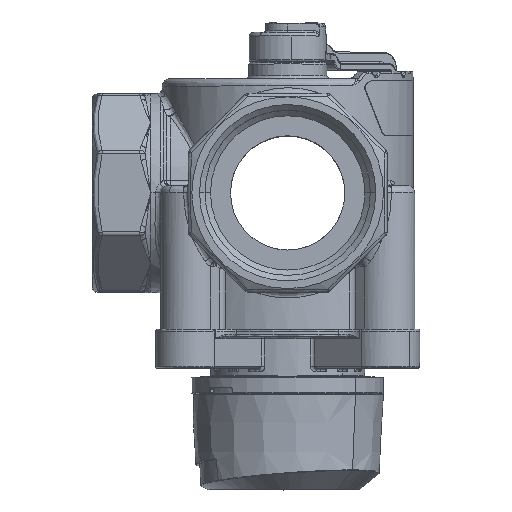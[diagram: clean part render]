
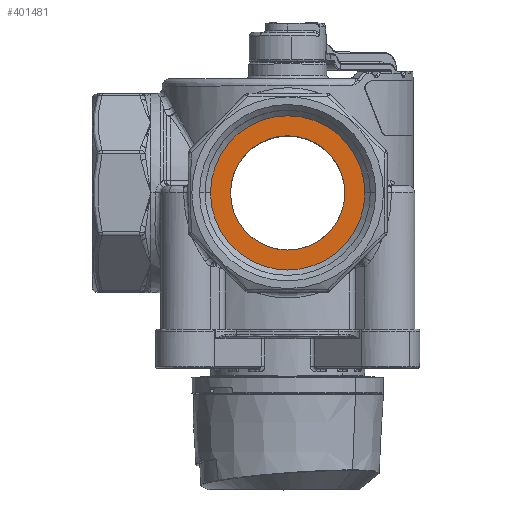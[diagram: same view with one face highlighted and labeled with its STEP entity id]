
A CAD part, top view. The second image highlights one B-rep face of the part: STEP entity #401481.
In plain terms, the highlighted planar face has unit normal (0, 0, 1) as drawn and (0, 0, -1) by its records, which use the part's own axes.
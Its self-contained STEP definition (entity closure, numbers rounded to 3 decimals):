
#10835 = EDGE_CURVE ( 'NONE', #217399, #228528, #146799, .T. ) ;
#13097 = CARTESIAN_POINT ( 'NONE',  ( -21.577, -14., -32. ) ) ;
#14987 = DIRECTION ( 'NONE',  ( -1., 0., 0. ) ) ;
#15510 = DIRECTION ( 'NONE',  ( -1., 0., 0. ) ) ;
#35640 = CARTESIAN_POINT ( 'NONE',  ( -6.077, -14., -32. ) ) ;
#43476 = CIRCLE ( 'NONE', #361646, 20.925 ) ;
#43878 = DIRECTION ( 'NONE',  ( 0., 0., -1. ) ) ;
#49762 = CIRCLE ( 'NONE', #329147, 15.5 ) ;
#57791 = EDGE_CURVE ( 'NONE', #360118, #221035, #438910, .T. ) ;
#77775 = DIRECTION ( 'NONE',  ( 0., 0., 1. ) ) ;
#101605 = FACE_OUTER_BOUND ( 'NONE', #439453, .T. ) ;
#146799 = CIRCLE ( 'NONE', #426153, 20.925 ) ;
#175781 = CARTESIAN_POINT ( 'NONE',  ( -37.077, -14., -32. ) ) ;
#212352 = EDGE_CURVE ( 'NONE', #221035, #360118, #49762, .T. ) ;
#213892 = PLANE ( 'NONE',  #427245 ) ;
#217399 = VERTEX_POINT ( 'NONE', #328252 ) ;
#221035 = VERTEX_POINT ( 'NONE', #35640 ) ;
#223438 = AXIS2_PLACEMENT_3D ( 'NONE', #333451, #77775, #14987 ) ;
#228528 = VERTEX_POINT ( 'NONE', #316611 ) ;
#266357 = CARTESIAN_POINT ( 'NONE',  ( -21.577, 6.925, -32. ) ) ;
#271609 = DIRECTION ( 'NONE',  ( 0., 0., -1. ) ) ;
#280407 = CARTESIAN_POINT ( 'NONE',  ( -21.577, -14., -32. ) ) ;
#282907 = DIRECTION ( 'NONE',  ( 0., 0., 1. ) ) ;
#301202 = EDGE_LOOP ( 'NONE', ( #473397, #320713 ) ) ;
#311627 = DIRECTION ( 'NONE',  ( -1., 0., 0. ) ) ;
#316611 = CARTESIAN_POINT ( 'NONE',  ( -0.652, -14., -32. ) ) ;
#320713 = ORIENTED_EDGE ( 'NONE', *, *, #212352, .T. ) ;
#328252 = CARTESIAN_POINT ( 'NONE',  ( -42.502, -14., -32. ) ) ;
#329147 = AXIS2_PLACEMENT_3D ( 'NONE', #13097, #282907, #435359 ) ;
#333451 = CARTESIAN_POINT ( 'NONE',  ( -21.577, -14., -32. ) ) ;
#360118 = VERTEX_POINT ( 'NONE', #175781 ) ;
#361646 = AXIS2_PLACEMENT_3D ( 'NONE', #280407, #432886, #15510 ) ;
#384130 = CARTESIAN_POINT ( 'NONE',  ( -21.577, -14., -32. ) ) ;
#397043 = EDGE_CURVE ( 'NONE', #228528, #217399, #43476, .T. ) ;
#401481 = ADVANCED_FACE ( 'NONE', ( #443942, #101605 ), #213892, .T. ) ;
#426153 = AXIS2_PLACEMENT_3D ( 'NONE', #384130, #271609, #311627 ) ;
#427245 = AXIS2_PLACEMENT_3D ( 'NONE', #266357, #43878, #458768 ) ;
#428602 = ORIENTED_EDGE ( 'NONE', *, *, #397043, .T. ) ;
#432886 = DIRECTION ( 'NONE',  ( 0., 0., -1. ) ) ;
#435359 = DIRECTION ( 'NONE',  ( -1., 0., 0. ) ) ;
#438910 = CIRCLE ( 'NONE', #223438, 15.5 ) ;
#439453 = EDGE_LOOP ( 'NONE', ( #457397, #428602 ) ) ;
#443942 = FACE_BOUND ( 'NONE', #301202, .T. ) ;
#457397 = ORIENTED_EDGE ( 'NONE', *, *, #10835, .T. ) ;
#458768 = DIRECTION ( 'NONE',  ( -1., 0., 0. ) ) ;
#473397 = ORIENTED_EDGE ( 'NONE', *, *, #57791, .T. ) ;
